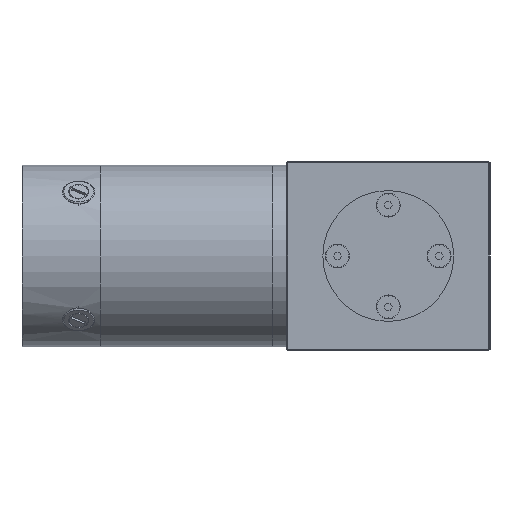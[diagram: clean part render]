
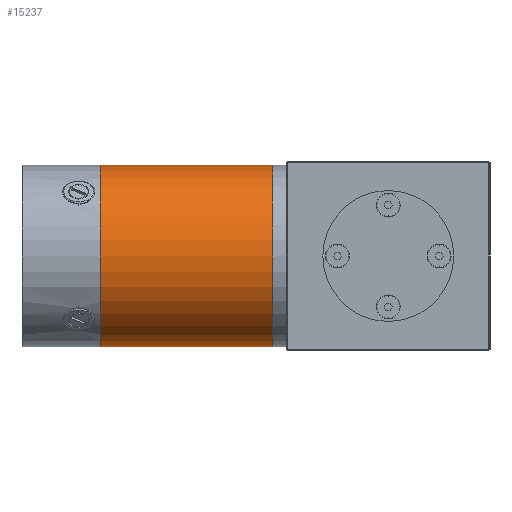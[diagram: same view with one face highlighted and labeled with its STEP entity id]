
A CAD part, left-side view. The second image highlights one B-rep face of the part: STEP entity #15237.
In plain terms, the highlighted cylindrical face has radius 39.685 mm (diameter 79.37 mm), a partial arc.
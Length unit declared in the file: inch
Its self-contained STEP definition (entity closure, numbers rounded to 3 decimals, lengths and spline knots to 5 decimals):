
#1431 = AXIS2_PLACEMENT_3D ( 'NONE', #12475, #57298, #12863 ) ;
#1881 = CARTESIAN_POINT ( 'NONE',  ( 9.26851, 19693.09055, 3.1874 ) ) ;
#2433 = CARTESIAN_POINT ( 'NONE',  ( 9.26851, 6.70118, 3.1874 ) ) ;
#3367 = CYLINDRICAL_SURFACE ( 'NONE', #1431, 1.5624 ) ;
#7430 = CARTESIAN_POINT ( 'NONE',  ( 9.26851, 6.70118, 0.0626 ) ) ;
#7458 = ORIENTED_EDGE ( 'NONE', *, *, #30490, .T. ) ;
#7769 = EDGE_LOOP ( 'NONE', ( #46604, #7458, #30360, #51486 ) ) ;
#9239 = CARTESIAN_POINT ( 'NONE',  ( 9.26851, 3.73622, 0.0626 ) ) ;
#11777 = VECTOR ( 'NONE', #34688, 39.37008 ) ;
#12475 = CARTESIAN_POINT ( 'NONE',  ( 9.26851, 19693.09055, 1.625 ) ) ;
#12863 = DIRECTION ( 'NONE',  ( 0., 0., 1. ) ) ;
#13658 = VERTEX_POINT ( 'NONE', #40813 ) ;
#14108 = EDGE_CURVE ( 'NONE', #33840, #13658, #35632, .T. ) ;
#14169 = DIRECTION ( 'NONE',  ( 0., 0., -1. ) ) ;
#15237 = ADVANCED_FACE ( 'NONE', ( #44683 ), #3367, .T. ) ;
#17076 = EDGE_CURVE ( 'NONE', #27245, #13658, #50191, .T. ) ;
#18935 = AXIS2_PLACEMENT_3D ( 'NONE', #55033, #41057, #14169 ) ;
#25243 = CARTESIAN_POINT ( 'NONE',  ( 9.26851, 6.70118, 1.625 ) ) ;
#25789 = LINE ( 'NONE', #28998, #11777 ) ;
#27245 = VERTEX_POINT ( 'NONE', #2433 ) ;
#28048 = CIRCLE ( 'NONE', #38933, 1.5624 ) ;
#28615 = EDGE_CURVE ( 'NONE', #27245, #40536, #28048, .T. ) ;
#28998 = CARTESIAN_POINT ( 'NONE',  ( 9.26851, 19693.09055, 0.0626 ) ) ;
#30360 = ORIENTED_EDGE ( 'NONE', *, *, #14108, .T. ) ;
#30490 = EDGE_CURVE ( 'NONE', #40536, #33840, #25789, .T. ) ;
#31293 = VECTOR ( 'NONE', #33238, 39.37008 ) ;
#33238 = DIRECTION ( 'NONE',  ( 0., -1., 0. ) ) ;
#33840 = VERTEX_POINT ( 'NONE', #9239 ) ;
#34688 = DIRECTION ( 'NONE',  ( 0., -1., 0. ) ) ;
#35632 = CIRCLE ( 'NONE', #18935, 1.5624 ) ;
#38933 = AXIS2_PLACEMENT_3D ( 'NONE', #25243, #42490, #51264 ) ;
#40536 = VERTEX_POINT ( 'NONE', #7430 ) ;
#40813 = CARTESIAN_POINT ( 'NONE',  ( 9.26851, 3.73622, 3.1874 ) ) ;
#41057 = DIRECTION ( 'NONE',  ( 0., 1., 0. ) ) ;
#42490 = DIRECTION ( 'NONE',  ( 0., -1., 0. ) ) ;
#44683 = FACE_OUTER_BOUND ( 'NONE', #7769, .T. ) ;
#46604 = ORIENTED_EDGE ( 'NONE', *, *, #28615, .T. ) ;
#50191 = LINE ( 'NONE', #1881, #31293 ) ;
#51264 = DIRECTION ( 'NONE',  ( 0., 0., 1. ) ) ;
#51486 = ORIENTED_EDGE ( 'NONE', *, *, #17076, .F. ) ;
#55033 = CARTESIAN_POINT ( 'NONE',  ( 9.26851, 3.73622, 1.625 ) ) ;
#57298 = DIRECTION ( 'NONE',  ( 0., -1., 0. ) ) ;
